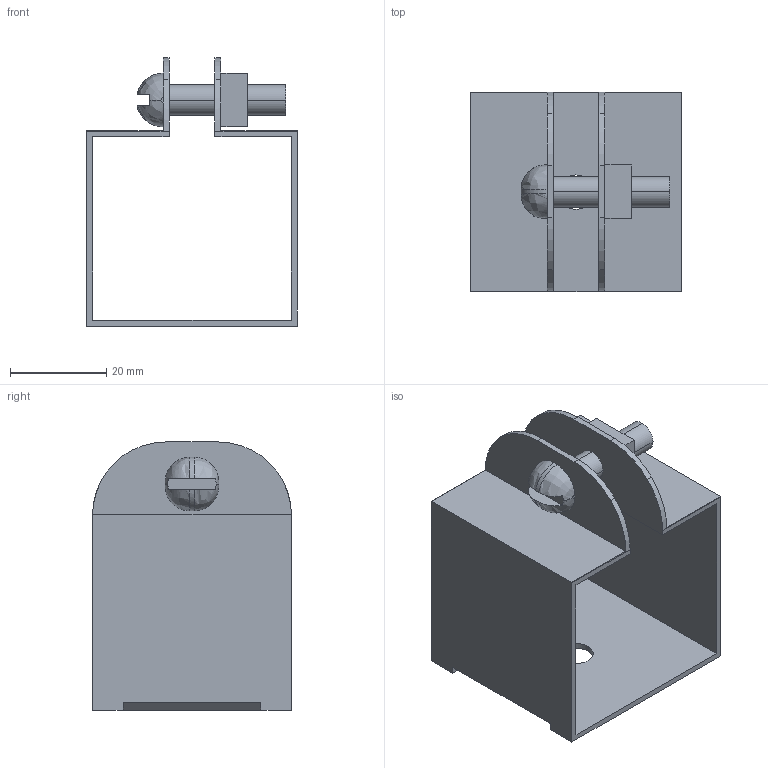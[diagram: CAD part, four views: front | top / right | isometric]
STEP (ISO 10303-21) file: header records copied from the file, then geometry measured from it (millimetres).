
FILE_DESCRIPTION(('TurboCAD Mac Pro'),'Build 980');
FILE_NAME('P3539.stp',' ',(''),(''),'ACIS Interop','IMSI','TurboCAD Mac Pro BY IMSI, INCORPORATED');
FILE_SCHEMA(('automotive_design'));
Length unit declared in the file: inch
Products named in the file (3): 1; 2; 3
Bounding box: 43.71 x 41.27 x 55.62 mm (x, y, z)
Volume: 10484.1 mm3; surface area: 16536.6 mm2
Topology: 3 solids, 3 shells, 72 faces, 200 edges, 136 vertices
Faces by surface type: plane 38, bspline 26, cylinder 8
Entity records: 4519 total; most frequent: CARTESIAN_POINT 2190, ORIENTED_EDGE 400, DIRECTION 252, EDGE_CURVE 200, VERTEX_POINT 136, LINE 114, VECTOR 114, EDGE_LOOP 82
